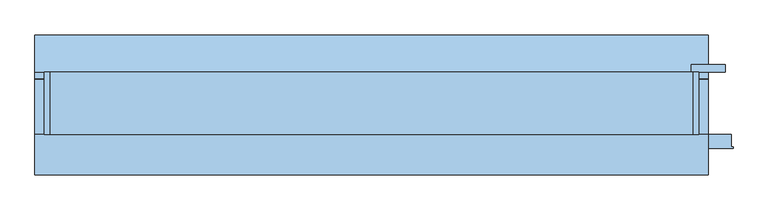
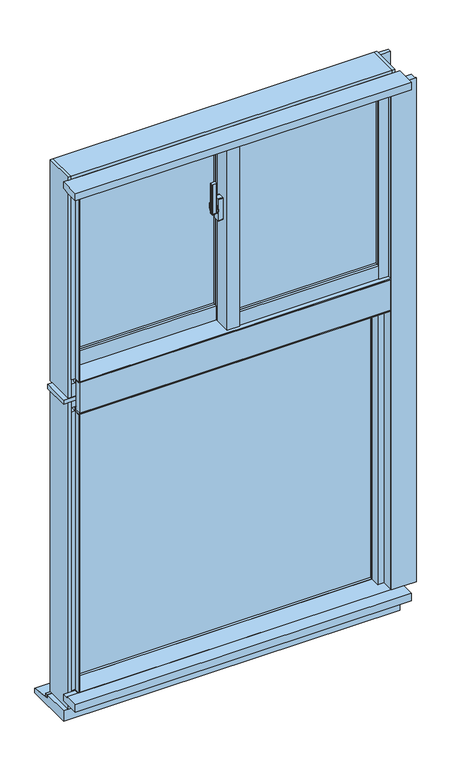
"""IFC4 building model written with IfcOpenShell, lengths in millimetres: window geometry, FNSⅡ100R_非防火_RC枠_段窓_分解無目 : FIX/引違."""

from ifc_helpers import new_model, si_unit, point, frame, frame_2d, origin, place, context, project, spatial, polyline, circle_curve, trimmed, segment, composite_curve, outline, extrude, faceted_brep, source, transform, mapped, element, save
from ifc_brep_helpers import plane_surface, cylinder_surface, revolved_surface, advanced_brep


def window_d4c82e34(model_context):
    return source(origin(), model_context, "Body", "SolidModel", [
        extrude(outline(composite_curve([segment(polyline([(-39.0, -20.4), (-39.0, -28.6)]), True, "CONTINUOUS"), segment(trimmed(circle_curve(frame_2d((-41.0, -28.6)), 2.0), [point((-39.0, -28.6))], [point((-41.3606557, -30.5672131))], False, "CARTESIAN"), True, "CONTINUOUS"), segment(polyline([(-41.3606557, -30.5672131), (-52.3606557, -28.5505464)]), True, "CONTINUOUS"), segment(trimmed(circle_curve(frame_2d((-52.0, -26.5833333)), 2.0), [point((-52.3606557, -28.5505464))], [point((-54.0, -26.5833333))], False, "CARTESIAN"), True, "CONTINUOUS"), segment(polyline([(-54.0, -26.5833333), (-54.0, -22.4166667)]), True, "CONTINUOUS"), segment(trimmed(circle_curve(frame_2d((-52.0, -22.4166667)), 2.0), [point((-54.0, -22.4166667))], [point((-52.3606557, -20.4494536))], False, "CARTESIAN"), True, "CONTINUOUS"), segment(polyline([(-52.3606557, -20.4494536), (-41.3606557, -18.4327869)]), True, "CONTINUOUS"), segment(trimmed(circle_curve(frame_2d((-41.0, -20.4)), 2.0), [point((-41.3606557, -18.4327869))], [point((-39.0, -20.4))], False, "CARTESIAN"), True, "CONTINUOUS")], self_intersect=False)), frame((0.0, 0.0, 2345.0), z_axis=(0.0, 0.0, 1.0), x_axis=(1.0, 0.0, 0.0)), (0.0, 0.0, 1.0), 100.0),
        advanced_brep(
        [(-37.5, -16.1765715, 2376.7333311), (-45.5, -16.1765715, 2376.7333311), (-45.5, -16.5648001, 2375.2844424), (-39.0, -16.5648001, 2375.2844424), (-39.0, -18.3765334, 2368.5229616), (-37.5, -18.3765334, 2368.5229616), (-39.0, -18.3533883, 2334.3190372), (-45.5, -18.3533883, 2334.3190372), (-45.5, -18.092916, 2332.8418256), (-37.5, -18.092916, 2332.8418256), (-37.5, -19.5689255, 2341.2126915), (-39.0, -19.5689255, 2341.2126915)],
        [
            (0, 1),
            (1, 2),
            (2, 3),
            (3, 4),
            (4, 5),
            (5, 0),
            (6, 7),
            (7, 8),
            (8, 9),
            (9, 10),
            (10, 11),
            (11, 6),
            (0, 9, circle_curve(frame((-37.5, -22.0, 2355.0), z_axis=(-1.0, 0.0, 0.0), x_axis=(0.0, 0.25881904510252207, 0.965925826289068)), 22.5)),
            (8, 1, circle_curve(frame((-45.5, -22.0, 2355.0), z_axis=(1.0, 0.0, 0.0), x_axis=(0.0, 0.25881904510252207, 0.965925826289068)), 22.5)),
            (7, 2, circle_curve(frame((-45.5, -22.0, 2355.0), z_axis=(1.0, 0.0, 0.0), x_axis=(0.0, 0.25881904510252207, 0.965925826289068)), 21.0)),
            (6, 3, circle_curve(frame((-39.0, -22.0, 2355.0), z_axis=(1.0, 0.0, 0.0), x_axis=(0.0, 0.25881904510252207, 0.965925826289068)), 21.0)),
            (11, 4, circle_curve(frame((-39.0, -22.0, 2355.0), z_axis=(-1.0, 0.0, 0.0), x_axis=(0.0, -1.0, 0.0)), 14.0)),
            (5, 10, circle_curve(frame((-37.5, -22.0, 2355.0), z_axis=(1.0, 0.0, 0.0), x_axis=(0.0, -1.0, 0.0)), 14.0)),
        ],
        [
            plane_surface(frame((-43.5470497, -22.0, 2355.0), z_axis=(0.0, -0.965925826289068, 0.25881904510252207), x_axis=(0.0, 0.25881904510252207, 0.965925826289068))),
            plane_surface(frame((-43.5470497, -22.0, 2355.0), z_axis=(0.0, -0.9848077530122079, -0.17364817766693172), x_axis=(0.0, 0.17364817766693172, -0.9848077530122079))),
            cylinder_surface(frame((-43.5470497, -22.0, 2355.0), z_axis=(-1.0, 0.0, 0.0), x_axis=(0.0, 0.25881904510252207, 0.965925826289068)), 22.5),
            plane_surface(frame((-45.5, -22.0, 2355.0), z_axis=(-1.0, 0.0, 0.0), x_axis=(0.0, 0.25881904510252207, 0.965925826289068))),
            revolved_surface(polyline([(-45.5, -16.564800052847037, 2375.2844423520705), (-39.0, -16.564800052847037, 2375.2844423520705)]), (-43.5470497, -22.0, 2355.0), (-1.0, 0.0, 0.0)),
            plane_surface(frame((-39.0, -22.0, 2355.0), z_axis=(-1.0, 0.0, 0.0), x_axis=(0.0, 0.25881904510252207, 0.965925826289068))),
            plane_surface(frame((-37.5, -22.0, 2355.0), z_axis=(1.0, 0.0, 0.0), x_axis=(0.0, 0.25881904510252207, 0.965925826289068))),
            cylinder_surface(frame((-37.5, -22.0, 2355.0), z_axis=(-1.0, 0.0, 0.0), x_axis=(0.0, -1.0, 0.0)), 14.0),
        ],
        [
            (0, [[1, 2, 3, 4, 5, 6]]),
            (1, [[7, 8, 9, 10, 11, 12]]),
            (2, [[-1, 13, -9, 14]]),
            (3, [[-2, -14, -8, 15]]),
            (4, [[-3, -15, -7, 16]]),
            (5, [[-16, -12, 17, -4]]),
            (6, [[-13, -6, 18, -10]]),
            (7, [[-17, -11, -18, -5]]),
        ],
    ),
        extrude(outline(composite_curve([segment(trimmed(circle_curve(frame_2d((-22.0, 2355.0)), 11.5), [point((-10.5, 2355.0))], [point((-33.5, 2355.0))], False, "CARTESIAN"), True, "CONTINUOUS"), segment(trimmed(circle_curve(frame_2d((-22.0, 2355.0)), 11.5), [point((-33.5, 2355.0))], [point((-10.5, 2355.0))], False, "CARTESIAN"), True, "CONTINUOUS")], self_intersect=False)), frame((-37.5, 0.0, 0.0), z_axis=(1.0, 0.0, 0.0), x_axis=(0.0, 1.0, 0.0)), (0.0, 0.0, 1.0), 2.5),
        extrude(outline(composite_curve([segment(polyline([(-31.0, 2392.5), (-13.0, 2392.5)]), True, "CONTINUOUS"), segment(trimmed(circle_curve(frame_2d((-13.0, 2390.5)), 2.0), [point((-13.0, 2392.5))], [point((-11.0, 2390.5))], False, "CARTESIAN"), True, "CONTINUOUS"), segment(polyline([(-11.0, 2390.5), (-11.0, 2319.5)]), True, "CONTINUOUS"), segment(trimmed(circle_curve(frame_2d((-13.0, 2319.5)), 2.0), [point((-11.0, 2319.5))], [point((-13.0, 2317.5))], False, "CARTESIAN"), True, "CONTINUOUS"), segment(polyline([(-13.0, 2317.5), (-31.0, 2317.5)]), True, "CONTINUOUS"), segment(trimmed(circle_curve(frame_2d((-31.0, 2319.5)), 2.0), [point((-31.0, 2317.5))], [point((-33.0, 2319.5))], False, "CARTESIAN"), True, "CONTINUOUS"), segment(polyline([(-33.0, 2319.5), (-33.0, 2390.5)]), True, "CONTINUOUS"), segment(trimmed(circle_curve(frame_2d((-31.0, 2390.5)), 2.0), [point((-33.0, 2390.5))], [point((-31.0, 2392.5))], False, "CARTESIAN"), True, "CONTINUOUS")], self_intersect=False)), frame((-35.0, 0.0, 0.0), z_axis=(1.0, 0.0, 0.0), x_axis=(0.0, 1.0, 0.0)), (0.0, 0.0, 1.0), 15.0),
        extrude(outline(polyline([(20.0, -31.0), (468.0, -31.0), (468.0, -37.0), (20.0, -37.0), (20.0, -31.0)])), frame((0.0, 0.0, 2003.0), z_axis=(0.0, 0.0, 1.0), x_axis=(1.0, 0.0, 0.0)), (0.0, 0.0, 1.0), 567.0),
        extrude(outline(polyline([(20.0, -13.0), (468.0, -13.0), (468.0, -19.0), (20.0, -19.0), (20.0, -13.0)])), frame((0.0, 0.0, 2003.0), z_axis=(0.0, 0.0, 1.0), x_axis=(1.0, 0.0, 0.0)), (0.0, 0.0, 1.0), 567.0),
        extrude(outline(polyline([(-468.0, 27.0), (-20.0, 27.0), (-20.0, 21.0), (-468.0, 21.0), (-468.0, 27.0)])), frame((0.0, 0.0, 2003.0), z_axis=(0.0, 0.0, 1.0), x_axis=(1.0, 0.0, 0.0)), (0.0, 0.0, 1.0), 567.0),
        extrude(outline(polyline([(-468.0, 45.0), (-20.0, 45.0), (-20.0, 39.0), (-468.0, 39.0), (-468.0, 45.0)])), frame((0.0, 0.0, 2003.0), z_axis=(0.0, 0.0, 1.0), x_axis=(1.0, 0.0, 0.0)), (0.0, 0.0, 1.0), 567.0),
        faceted_brep([(-500.0, 24.0, 2610.0), (-489.5, 24.0, 2610.0), (-489.5, 11.0, 2610.0), (-468.0, 11.0, 2610.0), (-468.0, 53.0, 2610.0), (-500.0, 53.0, 2610.0), (-468.0, 24.0, 1915.0), (-500.0, 24.0, 1915.0), (-500.0, 53.0, 1915.0), (-468.0, 53.0, 1915.0), (-468.0, 24.0, 1955.0), (-489.5, 24.0, 1955.0), (-489.5, 11.0, 1955.0), (-468.0, 11.0, 1955.0)], [[[0, 1, 2, 3, 4, 5]], [[6, 7, 8, 9]], [[1, 0, 7, 6, 10, 11]], [[2, 1, 11, 12]], [[3, 2, 12, 13]], [[4, 3, 13, 10, 6, 9]], [[5, 4, 9, 8]], [[7, 0, 5, 8]], [[11, 10, 13, 12]]]),
        faceted_brep([(-20.0, 10.5, 2610.0), (-1.8, 10.5, 2610.0), (-1.8, -1.9, 2610.0), (20.0, -1.9, 2610.0), (20.0, 53.0, 2610.0), (-20.0, 53.0, 2610.0), (-20.0, 53.0, 1915.0), (20.0, 53.0, 1915.0), (20.0, 24.0, 1915.0), (-20.0, 24.0, 1915.0), (-20.0, 10.5, 1955.0), (-1.8, 10.5, 1955.0), (-1.8, -1.9, 1955.0), (20.0, -1.9, 1955.0), (20.0, 24.0, 1955.0), (-20.0, 24.0, 1955.0)], [[[0, 1, 2, 3, 4, 5]], [[6, 7, 8, 9]], [[1, 0, 10, 11]], [[2, 1, 11, 12]], [[3, 2, 12, 13]], [[4, 3, 13, 14, 8, 7]], [[5, 4, 7, 6]], [[0, 5, 6, 9, 15, 10]], [[14, 15, 9, 8]], [[15, 14, 13, 12, 11, 10]]]),
        extrude(outline(polyline([(-20.0, -1.9), (-15.0, -1.9), (-15.0, -47.0), (15.0, -47.0), (15.0, -43.0), (20.0, -43.0), (20.0, -55.0), (-20.0, -55.0), (-20.0, -1.9)])), frame((0.0, 0.0, 1955.0), z_axis=(0.0, 0.0, 1.0), x_axis=(1.0, 0.0, 0.0)), (0.0, 0.0, 1.0), 655.0),
        extrude(outline(polyline([(-15.0, -1.9), (20.0, -1.9), (20.0, -43.0), (15.0, -43.0), (15.0, -47.0), (-15.0, -47.0), (-15.0, -1.9)])), frame((0.0, 0.0, 1955.0), z_axis=(0.0, 0.0, 1.0), x_axis=(1.0, 0.0, 0.0)), (0.0, 0.0, 1.0), 655.0),
        extrude(outline(polyline([(468.0, -55.0), (468.0, -47.0), (489.5, -47.0), (489.5, -34.0), (497.0, -34.0), (497.0, -55.0), (468.0, -55.0)])), frame((0.0, 0.0, 1958.0), z_axis=(0.0, 0.0, 1.0), x_axis=(1.0, 0.0, 0.0)), (0.0, 0.0, 1.0), 652.0),
        extrude(outline(polyline([(468.0, -5.0), (500.0, -5.0), (500.0, -34.0), (489.5, -34.0), (489.5, -47.0), (468.0, -47.0), (468.0, -5.0)])), frame((0.0, 0.0, 1955.0), z_axis=(0.0, 0.0, 1.0), x_axis=(1.0, 0.0, 0.0)), (0.0, 0.0, 1.0), 655.0),
        extrude(outline(polyline([(-1.85, 10.5), (-1.85, 3.0), (-20.0, 3.0), (-20.0, 10.5), (-1.85, 10.5)])), frame((0.0, 0.0, 1955.0), z_axis=(0.0, 0.0, 1.0), x_axis=(1.0, 0.0, 0.0)), (0.0, 0.0, 1.0), 655.0),
        extrude(outline(polyline([(-497.0, 24.0), (-489.5, 24.0), (-489.5, 11.0), (-468.0, 11.0), (-468.0, 3.0), (-497.0, 3.0), (-497.0, 24.0)])), frame((0.0, 0.0, 1955.0), z_axis=(0.0, 0.0, 1.0), x_axis=(1.0, 0.0, 0.0)), (0.0, 0.0, 1.0), 655.0),
        extrude(outline(polyline([(-53.0, 1958.0), (-53.0, 2003.0), (-45.0, 2003.0), (-45.0, 1980.5), (-34.0, 1980.5), (-34.0, 1958.0), (-53.0, 1958.0)])), frame((20.0, 0.0, 0.0), z_axis=(1.0, 0.0, 0.0), x_axis=(0.0, 1.0, 0.0)), (0.0, 0.0, 1.0), 448.0),
        extrude(outline(polyline([(-5.0, 1955.0), (-34.0, 1955.0), (-34.0, 1980.5), (-45.0, 1980.5), (-45.0, 2003.0), (-5.0, 2003.0), (-5.0, 1955.0)])), frame((20.0, 0.0, 0.0), z_axis=(1.0, 0.0, 0.0), x_axis=(0.0, 1.0, 0.0)), (0.0, 0.0, 1.0), 448.0),
        extrude(outline(polyline([(5.0, 2003.0), (13.0, 2003.0), (13.0, 1980.5), (24.0, 1980.5), (24.0, 1955.0), (5.0, 1955.0), (5.0, 2003.0)])), frame((-468.0, 0.0, 0.0), z_axis=(1.0, 0.0, 0.0), x_axis=(0.0, 1.0, 0.0)), (0.0, 0.0, 1.0), 448.0),
        extrude(outline(polyline([(53.0, 1915.0), (24.0, 1915.0), (24.0, 1980.5), (13.0, 1980.5), (13.0, 2003.0), (53.0, 2003.0), (53.0, 1915.0)])), frame((-468.0, 0.0, 0.0), z_axis=(1.0, 0.0, 0.0), x_axis=(0.0, 1.0, 0.0)), (0.0, 0.0, 1.0), 448.0),
        extrude(outline(polyline([(-32.0, 2590.5), (-45.0, 2590.5), (-45.0, 2570.0), (-53.0, 2570.0), (-53.0, 2610.0), (-32.0, 2610.0), (-32.0, 2590.5)])), frame((20.0, 0.0, 0.0), z_axis=(1.0, 0.0, 0.0), x_axis=(0.0, 1.0, 0.0)), (0.0, 0.0, 1.0), 448.0),
        extrude(outline(polyline([(-5.0, 2610.0), (-5.0, 2570.0), (-45.0, 2570.0), (-45.0, 2590.5), (-32.0, 2590.5), (-32.0, 2610.0), (-5.0, 2610.0)])), frame((20.0, 0.0, 0.0), z_axis=(1.0, 0.0, 0.0), x_axis=(0.0, 1.0, 0.0)), (0.0, 0.0, 1.0), 448.0),
        extrude(outline(polyline([(26.0, 2590.5), (13.0, 2590.5), (13.0, 2570.0), (5.0, 2570.0), (5.0, 2610.0), (26.0, 2610.0), (26.0, 2590.5)])), frame((-468.0, 0.0, 0.0), z_axis=(1.0, 0.0, 0.0), x_axis=(0.0, 1.0, 0.0)), (0.0, 0.0, 1.0), 448.0),
        extrude(outline(polyline([(53.0, 2610.0), (53.0, 2570.0), (13.0, 2570.0), (13.0, 2590.5), (26.0, 2590.5), (26.0, 2610.0), (53.0, 2610.0)])), frame((-468.0, 0.0, 0.0), z_axis=(1.0, 0.0, 0.0), x_axis=(0.0, 1.0, 0.0)), (0.0, 0.0, 1.0), 448.0),
        extrude(outline(polyline([(-15.0, 25.3), (-15.0, -23.1), (-500.0, -23.1), (-500.0, 25.3), (-15.0, 25.3)])), frame((0.0, 0.0, 2610.0), z_axis=(0.0, 0.0, 1.0), x_axis=(1.0, 0.0, 0.0)), (0.0, 0.0, 1.0), 25.0),
        faceted_brep([(515.0, 25.3, 2635.0), (515.0, -45.0, 2635.0), (-515.0, -45.0, 2635.0), (-515.0, 25.3, 2635.0), (-15.0, 25.3, 2635.0), (-15.0, -23.1, 2635.0), (500.0, -23.1, 2635.0), (500.0, 25.3, 2635.0), (515.0, 25.3, 2610.0), (500.0, 25.3, 2610.0), (-515.0, 25.3, 2610.0), (-15.0, 25.3, 2610.0), (515.0, 55.0, 2610.0), (500.0, -23.1, 2610.0), (-15.0, -23.1, 2610.0), (-515.0, 55.0, 2610.0), (515.0, 55.0, 2645.0), (-515.0, 55.0, 2645.0), (515.0, -45.0, 2645.0), (-515.0, -45.0, 2645.0)], [[[0, 1, 2, 3, 4, 5, 6, 7]], [[8, 0, 7, 9]], [[3, 10, 11, 4]], [[12, 8, 9, 13, 14, 11, 10, 15]], [[16, 12, 15, 17]], [[18, 16, 17, 19]], [[1, 18, 19, 2]], [[12, 16, 18, 1, 0, 8]], [[15, 10, 3, 2, 19, 17]], [[6, 13, 9, 7]], [[11, 14, 5, 4]], [[13, 6, 5, 14]]]),
        extrude(outline(polyline([(-23.1, 2610.0), (-65.0, 2610.0), (-65.0, 2613.0), (-45.0, 2613.0), (-45.0, 2635.0), (-23.1, 2635.0), (-23.1, 2610.0)])), frame((-500.0, 0.0, 0.0), z_axis=(1.0, 0.0, 0.0), x_axis=(0.0, 1.0, 0.0)), (0.0, 0.0, 1.0), 1000.0),
        faceted_brep([(500.0, -45.0, 2630.0), (515.0, -45.0, 2630.0), (515.0, -40.5, 2630.0), (500.0, -40.5, 2630.0), (500.0, -65.0, 1955.0), (500.0, -40.5, 1955.0), (515.0, -40.5, 1955.0), (515.0, -45.0, 1955.0), (503.0, -45.0, 1955.0), (503.0, -65.0, 1955.0), (503.0, -65.0, 2613.0), (500.0, -65.0, 2613.0), (503.0, -45.0, 2613.0), (500.0, -45.0, 2613.0)], [[[0, 1, 2, 3]], [[4, 5, 6, 7, 8, 9]], [[4, 9, 10, 11]], [[9, 8, 12, 10]], [[0, 13, 12, 8, 7, 1]], [[2, 1, 7, 6]], [[3, 2, 6, 5]], [[5, 4, 11, 13, 0, 3]], [[12, 13, 11, 10]]]),
        faceted_brep([(-515.0, -45.0, 2630.0), (-500.0, -45.0, 2630.0), (-500.0, 21.0, 2630.0), (-515.0, 21.0, 2630.0), (-515.0, -45.0, 1955.0), (-515.0, 21.0, 1955.0), (-500.0, 21.0, 1955.0), (-500.0, -65.0, 1955.0), (-503.0, -65.0, 1955.0), (-503.0, -45.0, 1955.0), (-503.0, -45.0, 2613.0), (-500.0, -45.0, 2613.0), (-503.0, -65.0, 2613.0), (-500.0, -65.0, 2613.0)], [[[0, 1, 2, 3]], [[4, 5, 6, 7, 8, 9]], [[4, 9, 10, 11, 1, 0]], [[9, 8, 12, 10]], [[8, 7, 13, 12]], [[7, 6, 2, 1, 11, 13]], [[3, 2, 6, 5]], [[4, 0, 3, 5]], [[11, 10, 12, 13]]]),
        faceted_brep([(-525.0, 55.0, 2645.0), (-525.0, -45.0, 2645.0), (-515.0, -45.0, 2645.0), (-515.0, 55.0, 2645.0), (-525.0, 55.0, 1895.0), (-515.0, 55.0, 1895.0), (-515.0, -45.0, 1895.0), (-525.0, -45.0, 1895.0), (-515.0, 55.0, 1904.0), (-515.0, 21.0, 1904.0), (-515.0, 21.0, 2610.0), (-515.0, 55.0, 2610.0), (-500.0, 55.0, 2610.0), (-500.0, 55.0, 1904.0), (-500.0, 21.0, 2610.0), (-500.0, 21.0, 1904.0)], [[[0, 1, 2, 3]], [[4, 5, 6, 7]], [[1, 0, 4, 7]], [[2, 1, 7, 6]], [[3, 2, 6, 5, 8, 9, 10, 11]], [[0, 3, 11, 12, 13, 8, 5, 4]], [[12, 11, 10, 14]], [[13, 15, 9, 8]], [[14, 10, 9, 15]], [[12, 14, 15, 13]]]),
        faceted_brep([(515.0, -45.0, 2645.0), (525.0, -45.0, 2645.0), (525.0, 55.0, 2645.0), (515.0, 55.0, 2645.0), (515.0, -45.0, 1895.0), (515.0, 55.0, 1895.0), (525.0, 55.0, 1895.0), (525.0, -45.0, 1895.0), (515.0, -40.5, 2610.0), (500.0, -40.5, 2610.0), (500.0, -40.5, 1904.0), (515.0, -40.5, 1904.0), (500.0, 55.0, 2610.0), (500.0, 55.0, 1904.0), (515.0, 55.0, 2610.0), (515.0, 55.0, 1904.0)], [[[0, 1, 2, 3]], [[4, 5, 6, 7]], [[8, 9, 10, 11]], [[9, 12, 13, 10]], [[9, 8, 14, 12]], [[10, 13, 15, 11]], [[1, 0, 4, 7]], [[2, 1, 7, 6]], [[3, 2, 6, 5, 15, 13, 12, 14]], [[0, 3, 14, 8, 11, 15, 5, 4]]]),
        faceted_brep([(515.0, -45.0, 1939.0), (515.0, 21.0, 1939.0), (-515.0, 21.0, 1939.0), (-515.0, -45.0, 1939.0), (500.0, -17.75, 1939.0), (500.0, -36.2, 1939.0), (-15.0, -36.2, 1939.0), (-15.0, -17.75, 1939.0), (515.0, 21.0, 1904.0), (-515.0, 21.0, 1904.0), (515.0, 55.0, 1904.0), (-515.0, 55.0, 1904.0), (515.0, 55.0, 1895.0), (515.0, -45.0, 1895.0), (-515.0, -45.0, 1895.0), (-515.0, 55.0, 1895.0), (500.0, -36.2, 1955.0), (500.0, -17.75, 1955.0), (-15.0, -36.2, 1955.0), (-15.0, -17.75, 1955.0)], [[[0, 1, 2, 3], [4, 5, 6, 7]], [[1, 8, 9, 2]], [[8, 10, 11, 9]], [[12, 13, 14, 15]], [[12, 10, 8, 1, 0, 13]], [[15, 14, 3, 2, 9, 11]], [[13, 0, 3, 14]], [[10, 12, 15, 11]], [[16, 5, 4, 17]], [[18, 19, 7, 6]], [[5, 16, 18, 6]], [[17, 4, 7, 19]], [[16, 17, 19, 18]]]),
        faceted_brep([(503.0, -65.0, 1955.0), (503.0, -65.0, 1952.0), (503.0, -45.0, 1952.0), (503.0, -45.0, 1939.0), (503.0, -40.5, 1939.0), (503.0, -40.5, 1955.0), (-503.0, -45.0, 1939.0), (-503.0, -45.0, 1952.0), (-503.0, -65.0, 1952.0), (-503.0, -65.0, 1955.0), (-503.0, -36.2, 1955.0), (-503.0, -36.2, 1939.0), (500.0, -40.5, 1955.0), (500.0, -36.2, 1955.0), (-15.0, -36.2, 1955.0), (-15.0, 21.0, 1955.0), (-500.0, 21.0, 1955.0), (-500.0, -36.2, 1955.0), (-500.0, -36.2, 1939.0), (500.0, -36.2, 1939.0), (-15.0, -36.2, 1939.0), (-500.0, 21.0, 1939.0), (-15.0, 21.0, 1939.0), (500.0, -40.5, 1939.0)], [[[0, 1, 2, 3, 4, 5]], [[6, 7, 8, 9, 10, 11]], [[3, 2, 7, 6]], [[2, 1, 8, 7]], [[1, 0, 9, 8]], [[10, 9, 0, 5, 12, 13, 14, 15, 16, 17]], [[11, 10, 17, 18]], [[13, 19, 20, 14]], [[6, 11, 18, 21, 22, 20, 19, 23, 4, 3]], [[12, 23, 19, 13]], [[23, 12, 5, 4]], [[15, 14, 20, 22]], [[16, 21, 18, 17]], [[15, 22, 21, 16]]]),
        extrude(outline(polyline([(-480.0, 20.6), (480.0, 20.6), (480.0, 14.6), (-480.0, 14.6), (-480.0, 20.6)])), frame((0.0, 0.0, 900.0), z_axis=(0.0, 0.0, 1.0), x_axis=(1.0, 0.0, 0.0)), (0.0, 0.0, 1.0), 925.0),
        extrude(outline(polyline([(-480.0, 38.6), (480.0, 38.6), (480.0, 32.6), (-480.0, 32.6), (-480.0, 38.6)])), frame((0.0, 0.0, 900.0), z_axis=(0.0, 0.0, 1.0), x_axis=(1.0, 0.0, 0.0)), (0.0, 0.0, 1.0), 925.0),
        faceted_brep([(-480.0, 5.0, 1825.0), (-515.0, 5.0, 1825.0), (-515.0, 5.0, 900.0), (-480.0, 5.0, 900.0), (-480.0, 55.0, 1825.0), (-480.0, 55.0, 900.0), (-515.0, 55.0, 1880.0), (-515.0, -45.0, 1880.0), (-515.0, -45.0, 840.0), (-515.0, 55.0, 840.0), (-515.0, 55.0, 900.0), (-515.0, 55.0, 1825.0), (-525.0, 55.0, 1880.0), (-525.0, -45.0, 1880.0), (-525.0, 55.0, 840.0), (-525.0, -45.0, 840.0)], [[[0, 1, 2, 3]], [[4, 0, 3, 5]], [[6, 7, 8, 9, 10, 2, 1, 11]], [[5, 3, 2, 10]], [[12, 13, 7, 6]], [[14, 9, 8, 15]], [[13, 12, 14, 15]], [[7, 13, 15, 8]], [[12, 6, 11, 4, 5, 10, 9, 14]], [[4, 11, 1, 0]]]),
        faceted_brep([(480.0, 5.0, 1825.0), (480.0, 55.0, 1825.0), (480.0, 55.0, 900.0), (480.0, 5.0, 900.0), (515.0, 5.0, 1825.0), (515.0, 5.0, 900.0), (525.0, -45.0, 1880.0), (515.0, -45.0, 1880.0), (515.0, -45.0, 840.0), (525.0, -45.0, 840.0), (525.0, 55.0, 1880.0), (525.0, 55.0, 840.0), (515.0, 55.0, 900.0), (515.0, 55.0, 1880.0), (515.0, 55.0, 840.0), (515.0, 55.0, 1825.0)], [[[0, 1, 2, 3]], [[4, 0, 3, 5]], [[6, 7, 8, 9]], [[10, 6, 9, 11]], [[5, 3, 2, 12]], [[10, 13, 7, 6]], [[11, 9, 8, 14]], [[13, 10, 11, 14, 12, 2, 1, 15]], [[7, 13, 15, 4, 5, 12, 14, 8]], [[15, 1, 0, 4]]]),
        extrude(outline(polyline([(500.0, -65.0), (500.0, -26.5), (480.0, -26.5), (480.0, 5.0), (515.0, 5.0), (515.0, -45.0), (503.0, -45.0), (503.0, -65.0), (500.0, -65.0)])), frame((0.0, 0.0, 900.0), z_axis=(0.0, 0.0, 1.0), x_axis=(1.0, 0.0, 0.0)), (0.0, 0.0, 1.0), 945.0),
        extrude(outline(polyline([(-515.0, -45.0), (-515.0, 5.0), (-480.0, 5.0), (-480.0, -26.5), (-500.0, -26.5), (-500.0, -65.0), (-503.0, -65.0), (-503.0, -45.0), (-515.0, -45.0)])), frame((0.0, 0.0, 900.0), z_axis=(0.0, 0.0, 1.0), x_axis=(1.0, 0.0, 0.0)), (0.0, 0.0, 1.0), 945.0),
        extrude(outline(polyline([(-45.0, 884.0), (-45.0, 897.0), (-65.0, 897.0), (-65.0, 900.0), (5.0, 900.0), (5.0, 884.0), (-45.0, 884.0)])), frame((-503.0, 0.0, 0.0), z_axis=(1.0, 0.0, 0.0), x_axis=(0.0, 1.0, 0.0)), (0.0, 0.0, 1.0), 1006.0),
        extrude(outline(polyline([(55.0, 840.0), (-45.0, 840.0), (-45.0, 884.0), (5.0, 884.0), (5.0, 900.0), (55.0, 900.0), (55.0, 870.0), (36.0, 870.0), (36.0, 850.0), (55.0, 850.0), (55.0, 840.0)])), frame((-515.0, 0.0, 0.0), z_axis=(1.0, 0.0, 0.0), x_axis=(0.0, 1.0, 0.0)), (0.0, 0.0, 1.0), 1030.0),
        extrude(outline(polyline([(5.0, 1822.0), (-29.0, 1822.0), (-29.0, 1845.0), (-65.0, 1845.0), (-65.0, 1848.0), (-45.0, 1848.0), (-45.0, 1860.0), (5.0, 1860.0), (5.0, 1822.0)])), frame((-503.0, 0.0, 0.0), z_axis=(1.0, 0.0, 0.0), x_axis=(0.0, 1.0, 0.0)), (0.0, 0.0, 1.0), 1006.0),
        extrude(outline(polyline([(55.0, 1825.0), (5.0, 1825.0), (5.0, 1860.0), (-45.0, 1860.0), (-45.0, 1880.0), (55.0, 1880.0), (55.0, 1825.0)])), frame((-515.0, 0.0, 0.0), z_axis=(1.0, 0.0, 0.0), x_axis=(0.0, 1.0, 0.0)), (0.0, 0.0, 1.0), 1030.0),
        extrude(outline(polyline([(-110.0, 900.0), (-65.0, 900.0), (-65.0, 897.0), (-45.0, 897.0), (-45.0, 875.0), (-110.0, 875.0), (-110.0, 900.0)])), frame((-540.0, 0.0, 0.0), z_axis=(1.0, 0.0, 0.0), x_axis=(0.0, 1.0, 0.0)), (0.0, 0.0, 1.0), 1080.0),
        extrude(outline(polyline([(45.0, 840.0), (55.0, 840.0), (55.0, 828.4285714), (45.0, 830.0), (45.0, 840.0)])), frame((-540.0, 0.0, 0.0), z_axis=(1.0, 0.0, 0.0), x_axis=(0.0, 1.0, 0.0)), (0.0, 0.0, 1.0), 1080.0),
        extrude(outline(polyline([(-45.0, 804.0), (-45.0, 840.0), (45.0, 840.0), (45.0, 830.0), (115.0, 819.0), (115.0, 804.0), (-45.0, 804.0)])), frame((-540.0, 0.0, 0.0), z_axis=(1.0, 0.0, 0.0), x_axis=(0.0, 1.0, 0.0)), (0.0, 0.0, 1.0), 1080.0),
        extrude(outline(polyline([(503.0, -65.0), (503.0, -45.0), (577.0, -45.0), (577.0, -65.0), (580.0, -65.0), (580.0, -67.5), (500.0, -67.5), (500.0, -65.0), (503.0, -65.0)])), frame((0.0, 0.0, 900.0), z_axis=(0.0, 0.0, 1.0), x_axis=(1.0, 0.0, 0.0)), (0.0, 0.0, 1.0), 1710.0),
        extrude(outline(polyline([(567.5, 55.0), (512.5, 55.0), (512.5, 67.0), (567.5, 67.0), (567.5, 55.0)])), frame((0.0, 0.0, 840.0), z_axis=(0.0, 0.0, 1.0), x_axis=(1.0, 0.0, 0.0)), (0.0, 0.0, 1.0), 1790.0),
        extrude(outline(polyline([(-110.0, 2635.0), (-45.0, 2635.0), (-45.0, 2613.0), (-65.0, 2613.0), (-65.0, 2610.0), (-110.0, 2610.0), (-110.0, 2635.0)])), frame((-540.0, 0.0, 0.0), z_axis=(1.0, 0.0, 0.0), x_axis=(0.0, 1.0, 0.0)), (0.0, 0.0, 1.0), 1080.0),
        extrude(outline(polyline([(-500.0, -65.0), (-500.0, -45.0), (500.0, -45.0), (500.0, -65.0), (-500.0, -65.0)])), frame((0.0, 0.0, 1848.0), z_axis=(0.0, 0.0, 1.0), x_axis=(1.0, 0.0, 0.0)), (0.0, 0.0, 1.0), 104.0),
        extrude(outline(polyline([(-540.0, -45.0), (-540.0, 43.0), (540.0, 43.0), (540.0, -45.0), (-540.0, -45.0)])), frame((0.0, 0.0, 1880.0), z_axis=(0.0, 0.0, 1.0), x_axis=(1.0, 0.0, 0.0)), (0.0, 0.0, 1.0), 15.0),
    ])


if __name__ == "__main__":
    model = new_model("IFC4")
    model_context = context("Model", 3, world=origin())
    ifc_project = project(units=[si_unit("LENGTHUNIT", "METRE", prefix="MILLI")], contexts=[model_context])
    site = spatial("IfcSite", under=ifc_project)
    building = spatial("IfcBuilding", under=site)
    placement = place(None, origin())
    window_shape = window_d4c82e34(model_context)
    element("IfcWindow", 1, ObjectType="FNSⅡ100R_非防火_RC枠_段窓_分解無目 : FIX/引違", at=placement, inside=building, context=model_context, shape_type="MappedRepresentation", body=[
        mapped(window_shape, transform((0.0, 0.0, 0.0), x_axis=(1.0, 0.0, 0.0), y_axis=(0.0, 1.0, 0.0), z_axis=(0.0, 0.0, 1.0))),
    ])
    save(model, "model.ifc")
